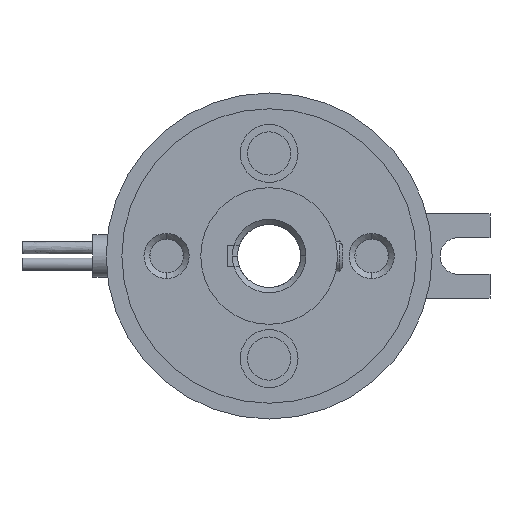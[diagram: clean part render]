
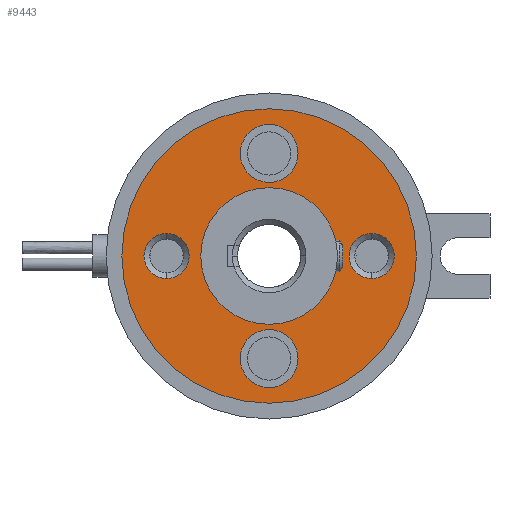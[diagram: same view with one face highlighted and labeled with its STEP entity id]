
A CAD part, left-side view. The second image highlights one B-rep face of the part: STEP entity #9443.
In plain terms, the highlighted planar face has unit normal (-1, 0, 0) as drawn and (0, 0, 1) by its records, which use the part's own axes.
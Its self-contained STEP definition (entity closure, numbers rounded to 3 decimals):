
#8434=CARTESIAN_POINT('',(-14.,0.,2.0));
#8435=VERTEX_POINT('',#8434);
#8451=CARTESIAN_POINT('',(14.,0.,2.0));
#8452=VERTEX_POINT('',#8451);
#8459=CARTESIAN_POINT('',(0.0,0.0,2.0));
#8460=DIRECTION('',(0.0,0.0,-1.0));
#8461=DIRECTION('',(-1.0,0.0,0.0));
#8462=AXIS2_PLACEMENT_3D('',#8459,#8460,#8461);
#8463=CIRCLE('',#8462,14.);
#8464=EDGE_CURVE('',#8452,#8435,#8463,.T.);
#8554=CARTESIAN_POINT('',(-6.5,0.,2.0));
#8555=VERTEX_POINT('',#8554);
#8564=CARTESIAN_POINT('',(6.5,0.,2.0));
#8565=VERTEX_POINT('',#8564);
#8566=CARTESIAN_POINT('',(0.0,0.0,2.0));
#8567=DIRECTION('',(0.0,0.0,-1.0));
#8568=DIRECTION('',(-1.0,0.0,0.0));
#8569=AXIS2_PLACEMENT_3D('',#8566,#8567,#8568);
#8570=CIRCLE('',#8569,6.5);
#8571=EDGE_CURVE('',#8565,#8555,#8570,.T.);
#8676=CARTESIAN_POINT('',(9.75,-2.15,2.0));
#8677=VERTEX_POINT('',#8676);
#8691=CARTESIAN_POINT('',(9.75,2.15,2.0));
#8692=VERTEX_POINT('',#8691);
#8699=CARTESIAN_POINT('',(9.75,0.,2.0));
#8700=DIRECTION('',(0.0,0.0,1.0));
#8701=DIRECTION('',(0.0,-1.0,0.0));
#8702=AXIS2_PLACEMENT_3D('',#8699,#8700,#8701);
#8703=CIRCLE('',#8702,2.15);
#8704=EDGE_CURVE('',#8692,#8677,#8703,.T.);
#8756=CARTESIAN_POINT('',(-9.75,2.15,2.0));
#8757=VERTEX_POINT('',#8756);
#8771=CARTESIAN_POINT('',(-9.75,-2.15,2.0));
#8772=VERTEX_POINT('',#8771);
#8779=CARTESIAN_POINT('',(-9.75,0.,2.0));
#8780=DIRECTION('',(0.0,0.0,1.0));
#8781=DIRECTION('',(0.0,1.0,0.0));
#8782=AXIS2_PLACEMENT_3D('',#8779,#8780,#8781);
#8783=CIRCLE('',#8782,2.15);
#8784=EDGE_CURVE('',#8772,#8757,#8783,.T.);
#8796=CARTESIAN_POINT('',(-2.75,-9.75,2.0));
#8797=VERTEX_POINT('',#8796);
#8813=CARTESIAN_POINT('',(2.75,-9.75,2.0));
#8814=VERTEX_POINT('',#8813);
#8821=CARTESIAN_POINT('',(0.,-9.75,2.0));
#8822=DIRECTION('',(0.0,0.0,-1.0));
#8823=DIRECTION('',(-1.0,0.0,0.0));
#8824=AXIS2_PLACEMENT_3D('',#8821,#8822,#8823);
#8825=CIRCLE('',#8824,2.75);
#8826=EDGE_CURVE('',#8797,#8814,#8825,.T.);
#8838=CARTESIAN_POINT('',(2.75,9.75,2.0));
#8839=VERTEX_POINT('',#8838);
#8855=CARTESIAN_POINT('',(-2.75,9.75,2.0));
#8856=VERTEX_POINT('',#8855);
#8863=CARTESIAN_POINT('',(0.,9.75,2.0));
#8864=DIRECTION('',(0.0,0.0,-1.0));
#8865=DIRECTION('',(1.0,0.0,0.0));
#8866=AXIS2_PLACEMENT_3D('',#8863,#8864,#8865);
#8867=CIRCLE('',#8866,2.75);
#8868=EDGE_CURVE('',#8839,#8856,#8867,.T.);
#9348=CARTESIAN_POINT('',(0.,9.75,2.0));
#9349=DIRECTION('',(0.0,0.0,-1.0));
#9350=DIRECTION('',(1.0,0.0,0.0));
#9351=AXIS2_PLACEMENT_3D('',#9348,#9349,#9350);
#9352=CIRCLE('',#9351,2.75);
#9353=EDGE_CURVE('',#8856,#8839,#9352,.T.);
#9366=CARTESIAN_POINT('',(0.,-9.75,2.0));
#9367=DIRECTION('',(0.0,0.0,-1.0));
#9368=DIRECTION('',(-1.0,0.0,0.0));
#9369=AXIS2_PLACEMENT_3D('',#9366,#9367,#9368);
#9370=CIRCLE('',#9369,2.75);
#9371=EDGE_CURVE('',#8814,#8797,#9370,.T.);
#9384=CARTESIAN_POINT('',(-9.75,0.,2.0));
#9385=DIRECTION('',(0.0,0.0,1.0));
#9386=DIRECTION('',(0.0,1.0,0.0));
#9387=AXIS2_PLACEMENT_3D('',#9384,#9385,#9386);
#9388=CIRCLE('',#9387,2.15);
#9389=EDGE_CURVE('',#8757,#8772,#9388,.T.);
#9396=CARTESIAN_POINT('',(0.0,0.0,2.0));
#9397=DIRECTION('',(0.0,0.0,-1.0));
#9398=DIRECTION('',(-1.0,0.0,0.0));
#9399=AXIS2_PLACEMENT_3D('',#9396,#9397,#9398);
#9400=PLANE('',#9399);
#9401=ORIENTED_EDGE('',*,*,#8464,.F.);
#9402=CARTESIAN_POINT('',(0.0,0.0,2.0));
#9403=DIRECTION('',(0.0,0.0,-1.0));
#9404=DIRECTION('',(-1.0,0.0,0.0));
#9405=AXIS2_PLACEMENT_3D('',#9402,#9403,#9404);
#9406=CIRCLE('',#9405,14.);
#9407=EDGE_CURVE('',#8435,#8452,#9406,.T.);
#9408=ORIENTED_EDGE('',*,*,#9407,.F.);
#9409=EDGE_LOOP('',(#9401,#9408));
#9410=FACE_OUTER_BOUND('',#9409,.T.);
#9411=ORIENTED_EDGE('',*,*,#9353,.T.);
#9412=ORIENTED_EDGE('',*,*,#8868,.T.);
#9413=EDGE_LOOP('',(#9411,#9412));
#9414=FACE_BOUND('',#9413,.T.);
#9415=ORIENTED_EDGE('',*,*,#9371,.T.);
#9416=ORIENTED_EDGE('',*,*,#8826,.T.);
#9417=EDGE_LOOP('',(#9415,#9416));
#9418=FACE_BOUND('',#9417,.T.);
#9419=ORIENTED_EDGE('',*,*,#8704,.F.);
#9420=CARTESIAN_POINT('',(9.75,0.,2.0));
#9421=DIRECTION('',(0.0,0.0,1.0));
#9422=DIRECTION('',(0.0,-1.0,0.0));
#9423=AXIS2_PLACEMENT_3D('',#9420,#9421,#9422);
#9424=CIRCLE('',#9423,2.15);
#9425=EDGE_CURVE('',#8677,#8692,#9424,.T.);
#9426=ORIENTED_EDGE('',*,*,#9425,.F.);
#9427=EDGE_LOOP('',(#9419,#9426));
#9428=FACE_BOUND('',#9427,.T.);
#9429=ORIENTED_EDGE('',*,*,#8571,.T.);
#9430=CARTESIAN_POINT('',(0.0,0.0,2.0));
#9431=DIRECTION('',(0.0,0.0,-1.0));
#9432=DIRECTION('',(-1.0,0.0,0.0));
#9433=AXIS2_PLACEMENT_3D('',#9430,#9431,#9432);
#9434=CIRCLE('',#9433,6.5);
#9435=EDGE_CURVE('',#8555,#8565,#9434,.T.);
#9436=ORIENTED_EDGE('',*,*,#9435,.T.);
#9437=EDGE_LOOP('',(#9429,#9436));
#9438=FACE_BOUND('',#9437,.T.);
#9439=ORIENTED_EDGE('',*,*,#8784,.F.);
#9440=ORIENTED_EDGE('',*,*,#9389,.F.);
#9441=EDGE_LOOP('',(#9439,#9440));
#9442=FACE_BOUND('',#9441,.T.);
#9443=ADVANCED_FACE('',(#9410,#9414,#9418,#9428,#9438,#9442),#9400,.F.);
